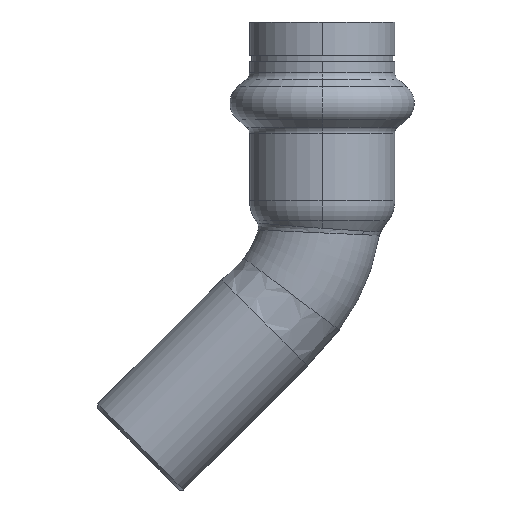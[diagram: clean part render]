
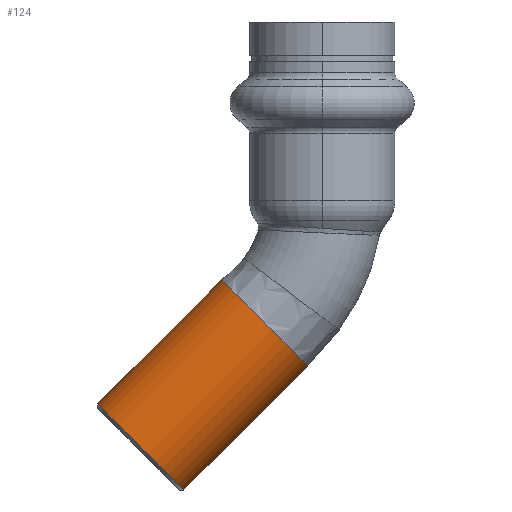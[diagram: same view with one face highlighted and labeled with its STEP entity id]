
A CAD part, left-side view. The second image highlights one B-rep face of the part: STEP entity #124.
In plain terms, the highlighted cylindrical face has radius 7.5 mm (diameter 15 mm), a partial arc.
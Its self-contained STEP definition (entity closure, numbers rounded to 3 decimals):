
#2 = DIRECTION ( 'NONE',  ( 0., 0.707, -0.707 ) ) ;
#54 = CARTESIAN_POINT ( 'NONE',  ( 0., 24.371, -24.371 ) ) ;
#103 = DIRECTION ( 'NONE',  ( 0., 0.707, -0.707 ) ) ;
#108 = CARTESIAN_POINT ( 'NONE',  ( 0., 19.068, -29.675 ) ) ;
#114 = CARTESIAN_POINT ( 'NONE',  ( 0., 12.374, -1.768 ) ) ;
#124 = ADVANCED_FACE ( 'NONE', ( #2290 ), #890, .T. ) ;
#132 = CARTESIAN_POINT ( 'NONE',  ( 0., 29.675, -19.068 ) ) ;
#142 = EDGE_CURVE ( 'NONE', #1283, #1805, #2061, .T. ) ;
#146 = DIRECTION ( 'NONE',  ( 0., 0.707, -0.707 ) ) ;
#153 = VERTEX_POINT ( 'NONE', #114 ) ;
#154 = EDGE_CURVE ( 'NONE', #153, #538, #1232, .T. ) ;
#289 = CARTESIAN_POINT ( 'NONE',  ( 0., 17.041, -27.648 ) ) ;
#311 = ORIENTED_EDGE ( 'NONE', *, *, #1553, .T. ) ;
#494 = ORIENTED_EDGE ( 'NONE', *, *, #1708, .T. ) ;
#496 = CIRCLE ( 'NONE', #869, 7.5 ) ;
#538 = VERTEX_POINT ( 'NONE', #720 ) ;
#645 = AXIS2_PLACEMENT_3D ( 'NONE', #925, #904, #901 ) ;
#720 = CARTESIAN_POINT ( 'NONE',  ( 0., 27.648, -17.041 ) ) ;
#869 = AXIS2_PLACEMENT_3D ( 'NONE', #1859, #1854, #1843 ) ;
#890 = CYLINDRICAL_SURFACE ( 'NONE', #1399, 7.5 ) ;
#901 = DIRECTION ( 'NONE',  ( 0., 0.707, 0.707 ) ) ;
#904 = DIRECTION ( 'NONE',  ( 0., -0.707, 0.707 ) ) ;
#925 = CARTESIAN_POINT ( 'NONE',  ( 0., 22.345, -22.345 ) ) ;
#1139 = ORIENTED_EDGE ( 'NONE', *, *, #142, .F. ) ;
#1202 = DIRECTION ( 'NONE',  ( 0., 0.707, 0.707 ) ) ;
#1232 = LINE ( 'NONE', #132, #2288 ) ;
#1283 = VERTEX_POINT ( 'NONE', #2410 ) ;
#1399 = AXIS2_PLACEMENT_3D ( 'NONE', #54, #2, #1202 ) ;
#1501 = EDGE_LOOP ( 'NONE', ( #1139, #311, #1604, #494 ) ) ;
#1553 = EDGE_CURVE ( 'NONE', #1283, #153, #496, .T. ) ;
#1604 = ORIENTED_EDGE ( 'NONE', *, *, #154, .T. ) ;
#1708 = EDGE_CURVE ( 'NONE', #538, #1805, #2406, .T. ) ;
#1805 = VERTEX_POINT ( 'NONE', #289 ) ;
#1843 = DIRECTION ( 'NONE',  ( 0., 0.707, 0.707 ) ) ;
#1854 = DIRECTION ( 'NONE',  ( 0., 0.707, -0.707 ) ) ;
#1859 = CARTESIAN_POINT ( 'NONE',  ( 0., 7.071, -7.071 ) ) ;
#2061 = LINE ( 'NONE', #108, #2291 ) ;
#2288 = VECTOR ( 'NONE', #146, 1000. ) ;
#2290 = FACE_OUTER_BOUND ( 'NONE', #1501, .T. ) ;
#2291 = VECTOR ( 'NONE', #103, 1000. ) ;
#2406 = CIRCLE ( 'NONE', #645, 7.5 ) ;
#2410 = CARTESIAN_POINT ( 'NONE',  ( 0., 1.768, -12.374 ) ) ;
